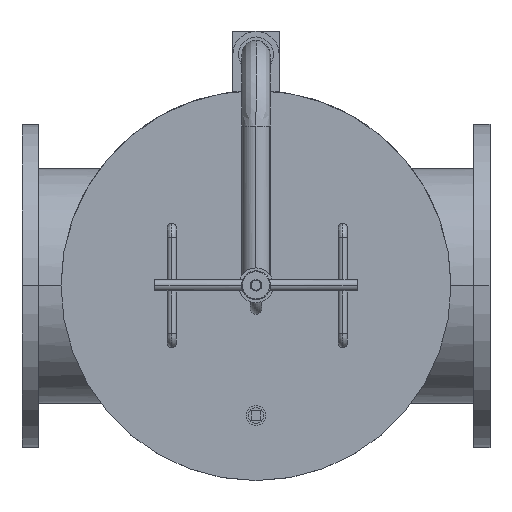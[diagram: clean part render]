
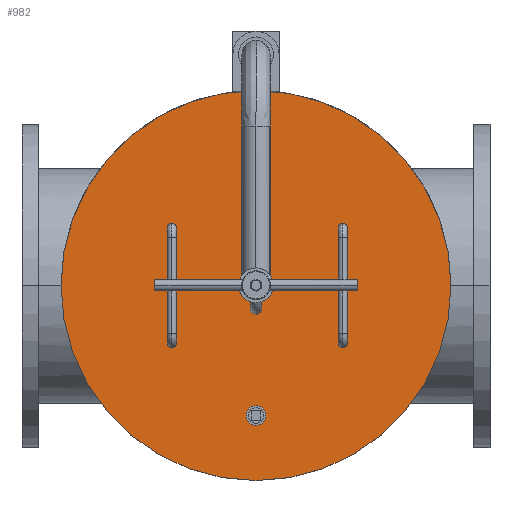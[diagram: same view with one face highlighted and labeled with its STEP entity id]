
A CAD part, top view. The second image highlights one B-rep face of the part: STEP entity #982.
In plain terms, the highlighted planar face has unit normal (0, 0, 1).
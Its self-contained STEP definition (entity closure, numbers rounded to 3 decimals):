
#982=ADVANCED_FACE('',(#2322,#2323,#2324,#2325,#2326,#2327,#2328,#2329),#2321,.F.);
#2321=PLANE('',#5335);
#2322=FACE_OUTER_BOUND('',#5336,.T.);
#2323=FACE_BOUND('',#5337,.T.);
#2324=FACE_BOUND('',#5338,.T.);
#2325=FACE_BOUND('',#5339,.T.);
#2326=FACE_BOUND('',#5340,.T.);
#2327=FACE_BOUND('',#5341,.T.);
#2328=FACE_BOUND('',#5342,.T.);
#2329=FACE_BOUND('',#5343,.T.);
#5332=CARTESIAN_POINT('',(685.,-594.567,443.));
#5333=DIRECTION('',(0.,0.,-1.));
#5334=DIRECTION('',(-1.,0.,0.));
#5335=AXIS2_PLACEMENT_3D('',#5332,#5333,#5334);
#5336=EDGE_LOOP('',(#8054,#8055));
#5337=EDGE_LOOP('',(#8056,#8057));
#5338=EDGE_LOOP('',(#8058,#8059));
#5339=EDGE_LOOP('',(#8060,#8061));
#5340=EDGE_LOOP('',(#8062,#8063));
#5341=EDGE_LOOP('',(#8064,#8065));
#5342=EDGE_LOOP('',(#8066,#8067));
#5343=EDGE_LOOP('',(#8068,#8069));
#8054=ORIENTED_EDGE('',*,*,#9366,.F.);
#8055=ORIENTED_EDGE('',*,*,#9367,.F.);
#8056=ORIENTED_EDGE('',*,*,#9368,.F.);
#8057=ORIENTED_EDGE('',*,*,#9369,.F.);
#8058=ORIENTED_EDGE('',*,*,#9370,.F.);
#8059=ORIENTED_EDGE('',*,*,#9371,.F.);
#8060=ORIENTED_EDGE('',*,*,#9372,.F.);
#8061=ORIENTED_EDGE('',*,*,#9373,.F.);
#8062=ORIENTED_EDGE('',*,*,#9374,.F.);
#8063=ORIENTED_EDGE('',*,*,#9375,.F.);
#8064=ORIENTED_EDGE('',*,*,#9376,.F.);
#8065=ORIENTED_EDGE('',*,*,#9377,.F.);
#8066=ORIENTED_EDGE('',*,*,#9378,.F.);
#8067=ORIENTED_EDGE('',*,*,#9379,.F.);
#8068=ORIENTED_EDGE('',*,*,#9380,.F.);
#8069=ORIENTED_EDGE('',*,*,#9381,.F.);
#9366=EDGE_CURVE('',#12338,#12339,#12340,.T.);
#9367=EDGE_CURVE('',#12339,#12338,#12346,.T.);
#9368=EDGE_CURVE('',#12352,#12353,#12354,.T.);
#9369=EDGE_CURVE('',#12353,#12352,#12360,.T.);
#9370=EDGE_CURVE('',#12366,#12367,#12368,.T.);
#9371=EDGE_CURVE('',#12367,#12366,#12374,.T.);
#9372=EDGE_CURVE('',#12380,#12381,#12382,.T.);
#9373=EDGE_CURVE('',#12381,#12380,#12388,.T.);
#9374=EDGE_CURVE('',#12394,#12395,#12396,.T.);
#9375=EDGE_CURVE('',#12395,#12394,#12402,.T.);
#9376=EDGE_CURVE('',#12408,#12409,#12410,.T.);
#9377=EDGE_CURVE('',#12409,#12408,#12416,.T.);
#9378=EDGE_CURVE('',#12422,#12423,#12424,.T.);
#9379=EDGE_CURVE('',#12423,#12422,#12430,.T.);
#9380=EDGE_CURVE('',#12436,#12437,#12438,.T.);
#9381=EDGE_CURVE('',#12437,#12436,#12444,.T.);
#12338=VERTEX_POINT('',#16673);
#12339=VERTEX_POINT('',#16674);
#12340=CIRCLE('',#16678,337.5);
#12346=CIRCLE('',#16682,337.5);
#12352=VERTEX_POINT('',#16683);
#12353=VERTEX_POINT('',#16684);
#12354=CIRCLE('',#16688,4.);
#12360=CIRCLE('',#16692,4.);
#12366=VERTEX_POINT('',#16693);
#12367=VERTEX_POINT('',#16694);
#12368=CIRCLE('',#16698,4.);
#12374=CIRCLE('',#16702,4.);
#12380=VERTEX_POINT('',#16703);
#12381=VERTEX_POINT('',#16704);
#12382=CIRCLE('',#16708,4.);
#12388=CIRCLE('',#16712,4.);
#12394=VERTEX_POINT('',#16713);
#12395=VERTEX_POINT('',#16714);
#12396=CIRCLE('',#16718,4.);
#12402=CIRCLE('',#16722,4.);
#12408=VERTEX_POINT('',#16723);
#12409=VERTEX_POINT('',#16724);
#12410=CIRCLE('',#16728,4.);
#12416=CIRCLE('',#16732,4.);
#12422=VERTEX_POINT('',#16733);
#12423=VERTEX_POINT('',#16734);
#12424=CIRCLE('',#16738,4.);
#12430=CIRCLE('',#16742,4.);
#12436=VERTEX_POINT('',#16743);
#12437=VERTEX_POINT('',#16744);
#12438=CIRCLE('',#16748,17.25);
#12444=CIRCLE('',#16752,17.25);
#16673=CARTESIAN_POINT('',(337.5,0.,443.));
#16674=CARTESIAN_POINT('',(-337.5,0.,443.));
#16675=CARTESIAN_POINT('',(0.,0.,443.));
#16676=DIRECTION('',(0.,0.,-1.));
#16677=DIRECTION('',(-1.,0.,0.));
#16678=AXIS2_PLACEMENT_3D('',#16675,#16676,#16677);
#16679=CARTESIAN_POINT('',(0.,0.,443.));
#16680=DIRECTION('',(0.,0.,-1.));
#16681=DIRECTION('',(-1.,0.,0.));
#16682=AXIS2_PLACEMENT_3D('',#16679,#16680,#16681);
#16683=CARTESIAN_POINT('',(-146.,100.,443.));
#16684=CARTESIAN_POINT('',(-154.,100.,443.));
#16685=CARTESIAN_POINT('',(-150.,100.,443.));
#16686=DIRECTION('',(0.,0.,1.));
#16687=DIRECTION('',(-1.,0.,0.));
#16688=AXIS2_PLACEMENT_3D('',#16685,#16686,#16687);
#16689=CARTESIAN_POINT('',(-150.,100.,443.));
#16690=DIRECTION('',(0.,0.,1.));
#16691=DIRECTION('',(-1.,0.,0.));
#16692=AXIS2_PLACEMENT_3D('',#16689,#16690,#16691);
#16693=CARTESIAN_POINT('',(-146.,-100.,443.));
#16694=CARTESIAN_POINT('',(-154.,-100.,443.));
#16695=CARTESIAN_POINT('',(-150.,-100.,443.));
#16696=DIRECTION('',(0.,0.,1.));
#16697=DIRECTION('',(-1.,0.,0.));
#16698=AXIS2_PLACEMENT_3D('',#16695,#16696,#16697);
#16699=CARTESIAN_POINT('',(-150.,-100.,443.));
#16700=DIRECTION('',(0.,0.,1.));
#16701=DIRECTION('',(-1.,0.,0.));
#16702=AXIS2_PLACEMENT_3D('',#16699,#16700,#16701);
#16703=CARTESIAN_POINT('',(-21.,0.,443.));
#16704=CARTESIAN_POINT('',(-29.,0.,443.));
#16705=CARTESIAN_POINT('',(-25.,0.,443.));
#16706=DIRECTION('',(0.,0.,1.));
#16707=DIRECTION('',(-1.,0.,0.));
#16708=AXIS2_PLACEMENT_3D('',#16705,#16706,#16707);
#16709=CARTESIAN_POINT('',(-25.,0.,443.));
#16710=DIRECTION('',(0.,0.,1.));
#16711=DIRECTION('',(-1.,0.,0.));
#16712=AXIS2_PLACEMENT_3D('',#16709,#16710,#16711);
#16713=CARTESIAN_POINT('',(29.,0.,443.));
#16714=CARTESIAN_POINT('',(21.,0.,443.));
#16715=CARTESIAN_POINT('',(25.,0.,443.));
#16716=DIRECTION('',(0.,0.,1.));
#16717=DIRECTION('',(-1.,0.,0.));
#16718=AXIS2_PLACEMENT_3D('',#16715,#16716,#16717);
#16719=CARTESIAN_POINT('',(25.,0.,443.));
#16720=DIRECTION('',(0.,0.,1.));
#16721=DIRECTION('',(-1.,0.,0.));
#16722=AXIS2_PLACEMENT_3D('',#16719,#16720,#16721);
#16723=CARTESIAN_POINT('',(154.,-100.,443.));
#16724=CARTESIAN_POINT('',(146.,-100.,443.));
#16725=CARTESIAN_POINT('',(150.,-100.,443.));
#16726=DIRECTION('',(0.,0.,1.));
#16727=DIRECTION('',(-1.,0.,0.));
#16728=AXIS2_PLACEMENT_3D('',#16725,#16726,#16727);
#16729=CARTESIAN_POINT('',(150.,-100.,443.));
#16730=DIRECTION('',(0.,0.,1.));
#16731=DIRECTION('',(-1.,0.,0.));
#16732=AXIS2_PLACEMENT_3D('',#16729,#16730,#16731);
#16733=CARTESIAN_POINT('',(154.,100.,443.));
#16734=CARTESIAN_POINT('',(146.,100.,443.));
#16735=CARTESIAN_POINT('',(150.,100.,443.));
#16736=DIRECTION('',(0.,0.,1.));
#16737=DIRECTION('',(-1.,0.,0.));
#16738=AXIS2_PLACEMENT_3D('',#16735,#16736,#16737);
#16739=CARTESIAN_POINT('',(150.,100.,443.));
#16740=DIRECTION('',(0.,0.,1.));
#16741=DIRECTION('',(-1.,0.,0.));
#16742=AXIS2_PLACEMENT_3D('',#16739,#16740,#16741);
#16743=CARTESIAN_POINT('',(-17.25,-225.,443.));
#16744=CARTESIAN_POINT('',(17.25,-225.,443.));
#16745=CARTESIAN_POINT('',(0.,-225.,443.));
#16746=DIRECTION('',(0.,0.,1.));
#16747=DIRECTION('',(1.,0.,0.));
#16748=AXIS2_PLACEMENT_3D('',#16745,#16746,#16747);
#16749=CARTESIAN_POINT('',(0.,-225.,443.));
#16750=DIRECTION('',(0.,0.,1.));
#16751=DIRECTION('',(1.,0.,0.));
#16752=AXIS2_PLACEMENT_3D('',#16749,#16750,#16751);
